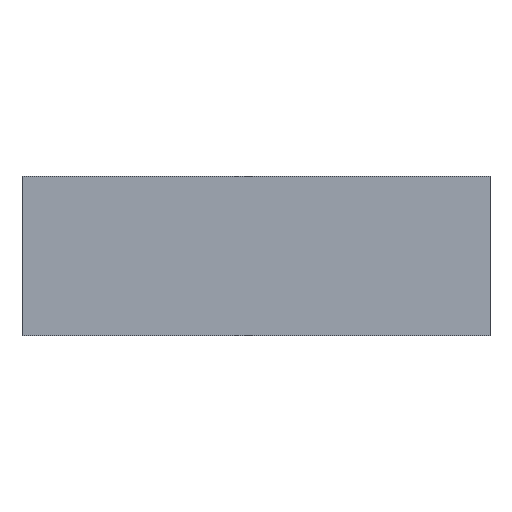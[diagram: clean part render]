
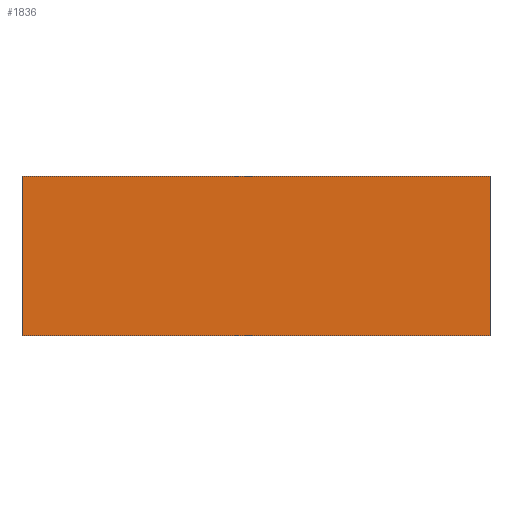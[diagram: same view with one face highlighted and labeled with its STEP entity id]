
A CAD part, front view. The second image highlights one B-rep face of the part: STEP entity #1836.
In plain terms, the highlighted planar face has unit normal (0, -1, 0).
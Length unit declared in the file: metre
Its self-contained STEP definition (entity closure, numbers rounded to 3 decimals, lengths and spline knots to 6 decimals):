
#1836 = ADVANCED_FACE ( 'NONE', ( #19389 ), #4087, .F. ) ;
#2757 = CARTESIAN_POINT ( 'NONE',  ( -0.017, 0., -0.0058 ) ) ;
#3299 = LINE ( 'NONE', #3734, #10778 ) ;
#3458 = VECTOR ( 'NONE', #15971, 1. ) ;
#3734 = CARTESIAN_POINT ( 'NONE',  ( 0.017, 0., -0.0058 ) ) ;
#4087 = PLANE ( 'NONE',  #24783 ) ;
#4650 = EDGE_CURVE ( 'NONE', #8161, #18978, #13239, .T. ) ;
#5793 = EDGE_CURVE ( 'NONE', #18978, #14552, #3299, .T. ) ;
#7083 = CARTESIAN_POINT ( 'NONE',  ( 0.017, 0., -0.0058 ) ) ;
#7111 = EDGE_CURVE ( 'NONE', #22747, #8161, #12584, .T. ) ;
#7680 = ORIENTED_EDGE ( 'NONE', *, *, #5793, .F. ) ;
#7762 = EDGE_LOOP ( 'NONE', ( #7680, #13274, #8526, #10803 ) ) ;
#8161 = VERTEX_POINT ( 'NONE', #18178 ) ;
#8526 = ORIENTED_EDGE ( 'NONE', *, *, #7111, .F. ) ;
#10601 = DIRECTION ( 'NONE',  ( 0., 0., 1. ) ) ;
#10778 = VECTOR ( 'NONE', #14239, 1. ) ;
#10803 = ORIENTED_EDGE ( 'NONE', *, *, #19905, .F. ) ;
#11009 = DIRECTION ( 'NONE',  ( 1., 0., 0. ) ) ;
#12249 = VECTOR ( 'NONE', #11009, 1. ) ;
#12584 = LINE ( 'NONE', #24494, #3458 ) ;
#13239 = LINE ( 'NONE', #14961, #12249 ) ;
#13274 = ORIENTED_EDGE ( 'NONE', *, *, #4650, .F. ) ;
#14202 = DIRECTION ( 'NONE',  ( -1., 0., 0. ) ) ;
#14239 = DIRECTION ( 'NONE',  ( 0., 0., -1. ) ) ;
#14552 = VERTEX_POINT ( 'NONE', #7083 ) ;
#14961 = CARTESIAN_POINT ( 'NONE',  ( -0.017, 0., 0.0058 ) ) ;
#15055 = CARTESIAN_POINT ( 'NONE',  ( 0.017, 0., 0.0058 ) ) ;
#15971 = DIRECTION ( 'NONE',  ( 0., 0., 1. ) ) ;
#18178 = CARTESIAN_POINT ( 'NONE',  ( -0.017, 0., 0.0058 ) ) ;
#18465 = CARTESIAN_POINT ( 'NONE',  ( -0.017, 0., -0.0058 ) ) ;
#18639 = CARTESIAN_POINT ( 'NONE',  ( 0., 0., 0. ) ) ;
#18776 = VECTOR ( 'NONE', #14202, 1. ) ;
#18978 = VERTEX_POINT ( 'NONE', #15055 ) ;
#19389 = FACE_OUTER_BOUND ( 'NONE', #7762, .T. ) ;
#19905 = EDGE_CURVE ( 'NONE', #14552, #22747, #24282, .T. ) ;
#22747 = VERTEX_POINT ( 'NONE', #2757 ) ;
#24282 = LINE ( 'NONE', #18465, #18776 ) ;
#24494 = CARTESIAN_POINT ( 'NONE',  ( -0.017, 0., -0.0058 ) ) ;
#24783 = AXIS2_PLACEMENT_3D ( 'NONE', #18639, #25077, #10601 ) ;
#25077 = DIRECTION ( 'NONE',  ( 0., 1., 0. ) ) ;
